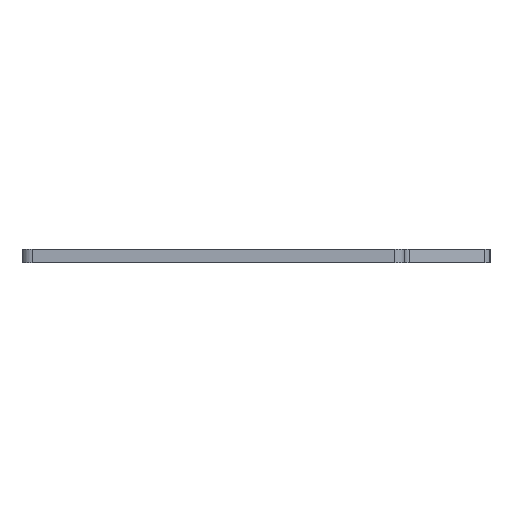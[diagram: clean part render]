
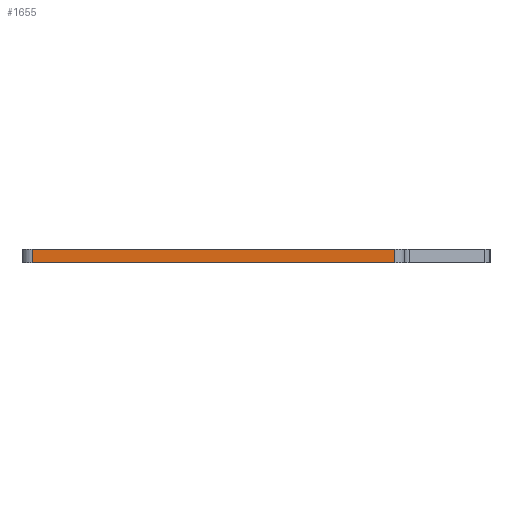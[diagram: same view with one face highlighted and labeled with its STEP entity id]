
A CAD part, left-side view. The second image highlights one B-rep face of the part: STEP entity #1655.
In plain terms, the highlighted planar face has unit normal (-1, 0, 0).
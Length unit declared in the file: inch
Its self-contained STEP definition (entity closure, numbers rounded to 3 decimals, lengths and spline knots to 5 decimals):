
#137=DIRECTION('',(0.,-1.,0.));
#138=VECTOR('',#137,4.23378);
#139=CARTESIAN_POINT('',(-8.,1.61689,0.));
#140=LINE('',#139,#138);
#311=DIRECTION('',(0.,0.,1.));
#312=VECTOR('',#311,0.15748);
#313=CARTESIAN_POINT('',(-8.,1.61689,-0.15748));
#314=LINE('',#313,#312);
#315=DIRECTION('',(0.,0.,1.));
#316=VECTOR('',#315,0.15748);
#317=CARTESIAN_POINT('',(-8.,-2.61689,-0.15748));
#318=LINE('',#317,#316);
#556=DIRECTION('',(0.,-1.,0.));
#557=VECTOR('',#556,4.23378);
#558=CARTESIAN_POINT('',(-8.,1.61689,-0.15748));
#559=LINE('',#558,#557);
#1146=CARTESIAN_POINT('',(-8.,1.61689,0.));
#1148=VERTEX_POINT('',#1146);
#1149=CARTESIAN_POINT('',(-8.,1.61689,-0.15748));
#1150=VERTEX_POINT('',#1149);
#1401=CARTESIAN_POINT('',(-8.,-2.61689,0.));
#1403=VERTEX_POINT('',#1401);
#1407=CARTESIAN_POINT('',(-8.,-2.61689,-0.15748));
#1408=VERTEX_POINT('',#1407);
#1642=CARTESIAN_POINT('',(-8.,-1.,-0.07874));
#1643=DIRECTION('',(-1.,0.,0.));
#1644=DIRECTION('',(0.,-1.,0.));
#1645=AXIS2_PLACEMENT_3D('',#1642,#1643,#1644);
#1646=PLANE('',#1645);
#1647=ORIENTED_EDGE('',*,*,#1633,.T.);
#1648=ORIENTED_EDGE('',*,*,#1524,.T.);
#1650=ORIENTED_EDGE('',*,*,#1649,.F.);
#1652=ORIENTED_EDGE('',*,*,#1651,.F.);
#1653=EDGE_LOOP('',(#1647,#1648,#1650,#1652));
#1654=FACE_OUTER_BOUND('',#1653,.F.);
#1655=ADVANCED_FACE('',(#1654),#1646,.T.);
#1524=EDGE_CURVE('',#1148,#1403,#140,.T.);
#1633=EDGE_CURVE('',#1150,#1148,#314,.T.);
#1649=EDGE_CURVE('',#1408,#1403,#318,.T.);
#1651=EDGE_CURVE('',#1150,#1408,#559,.T.);
